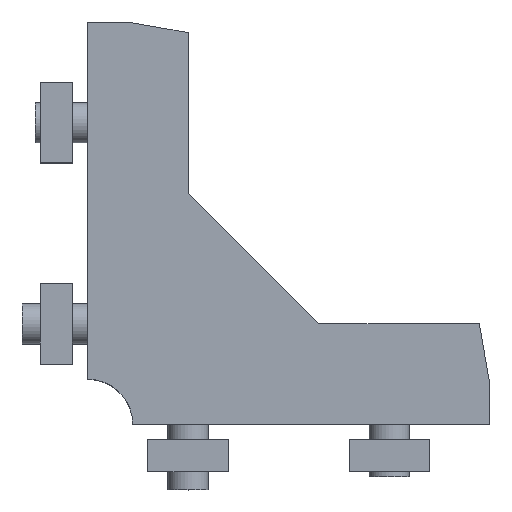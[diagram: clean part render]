
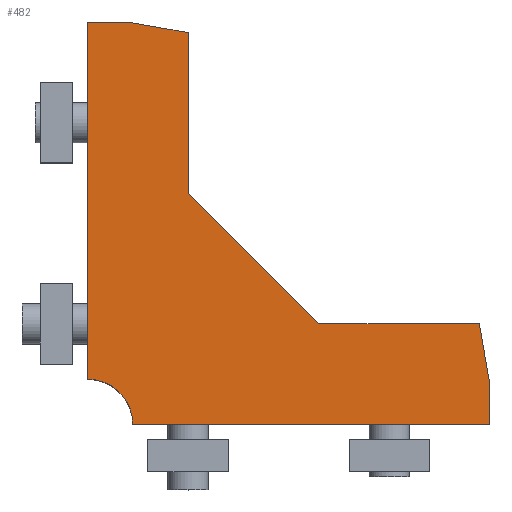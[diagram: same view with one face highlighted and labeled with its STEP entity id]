
A CAD part, top view. The second image highlights one B-rep face of the part: STEP entity #482.
In plain terms, the highlighted planar face has unit normal (0, 0, 1).
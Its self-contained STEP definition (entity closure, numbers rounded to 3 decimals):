
#367=CARTESIAN_POINT('',(0.,4.5,7.5));
#368=VERTEX_POINT('',#367);
#369=CARTESIAN_POINT('',(4.5,0.,7.5));
#370=VERTEX_POINT('',#369);
#371=CARTESIAN_POINT('',(0.0,0.0,7.5));
#372=DIRECTION('',(0.0,0.0,-1.0));
#373=DIRECTION('',(-1.0,0.0,0.0));
#374=AXIS2_PLACEMENT_3D('',#371,#372,#373);
#375=CIRCLE('',#374,4.5);
#376=EDGE_CURVE('',#368,#370,#375,.T.);
#404=CARTESIAN_POINT('',(14.673,14.673,7.5));
#405=DIRECTION('',(0.0,0.0,1.0));
#406=DIRECTION('',(1.0,0.0,0.0));
#407=AXIS2_PLACEMENT_3D('',#404,#405,#406);
#408=PLANE('',#407);
#409=ORIENTED_EDGE('',*,*,#376,.T.);
#410=CARTESIAN_POINT('',(40.,0.,7.5));
#411=VERTEX_POINT('',#410);
#412=CARTESIAN_POINT('',(40.,0.,7.5));
#413=DIRECTION('',(-1.0,0.0,0.0));
#414=VECTOR('',#413,35.5);
#415=LINE('',#412,#414);
#416=EDGE_CURVE('',#411,#370,#415,.T.);
#417=ORIENTED_EDGE('',*,*,#416,.F.);
#418=CARTESIAN_POINT('',(40.,4.,7.5));
#419=VERTEX_POINT('',#418);
#420=CARTESIAN_POINT('',(40.,4.,7.5));
#421=DIRECTION('',(0.0,-1.0,0.0));
#422=VECTOR('',#421,4.);
#423=LINE('',#420,#422);
#424=EDGE_CURVE('',#419,#411,#423,.T.);
#425=ORIENTED_EDGE('',*,*,#424,.F.);
#426=CARTESIAN_POINT('',(38.942,10.,7.5));
#427=VERTEX_POINT('',#426);
#428=CARTESIAN_POINT('',(38.942,10.,7.5));
#429=DIRECTION('',(0.174,-0.985,0.0));
#430=VECTOR('',#429,6.093);
#431=LINE('',#428,#430);
#432=EDGE_CURVE('',#427,#419,#431,.T.);
#433=ORIENTED_EDGE('',*,*,#432,.F.);
#434=CARTESIAN_POINT('',(23.,10.,7.5));
#435=VERTEX_POINT('',#434);
#436=CARTESIAN_POINT('',(23.,10.,7.5));
#437=DIRECTION('',(1.0,0.0,0.0));
#438=VECTOR('',#437,15.942);
#439=LINE('',#436,#438);
#440=EDGE_CURVE('',#435,#427,#439,.T.);
#441=ORIENTED_EDGE('',*,*,#440,.F.);
#442=CARTESIAN_POINT('',(10.,23.,7.5));
#443=VERTEX_POINT('',#442);
#444=CARTESIAN_POINT('',(10.,23.,7.5));
#445=DIRECTION('',(0.707,-0.707,0.0));
#446=VECTOR('',#445,18.385);
#447=LINE('',#444,#446);
#448=EDGE_CURVE('',#443,#435,#447,.T.);
#449=ORIENTED_EDGE('',*,*,#448,.F.);
#450=CARTESIAN_POINT('',(10.,38.942,7.5));
#451=VERTEX_POINT('',#450);
#452=CARTESIAN_POINT('',(10.,38.942,7.5));
#453=DIRECTION('',(0.0,-1.0,0.0));
#454=VECTOR('',#453,15.942);
#455=LINE('',#452,#454);
#456=EDGE_CURVE('',#451,#443,#455,.T.);
#457=ORIENTED_EDGE('',*,*,#456,.F.);
#458=CARTESIAN_POINT('',(4.,40.,7.5));
#459=VERTEX_POINT('',#458);
#460=CARTESIAN_POINT('',(4.,40.,7.5));
#461=DIRECTION('',(0.985,-0.174,0.0));
#462=VECTOR('',#461,6.093);
#463=LINE('',#460,#462);
#464=EDGE_CURVE('',#459,#451,#463,.T.);
#465=ORIENTED_EDGE('',*,*,#464,.F.);
#466=CARTESIAN_POINT('',(0.,40.,7.5));
#467=VERTEX_POINT('',#466);
#468=CARTESIAN_POINT('',(0.,40.,7.5));
#469=DIRECTION('',(1.0,0.,0.0));
#470=VECTOR('',#469,4.);
#471=LINE('',#468,#470);
#472=EDGE_CURVE('',#467,#459,#471,.T.);
#473=ORIENTED_EDGE('',*,*,#472,.F.);
#474=CARTESIAN_POINT('',(0.,4.5,7.5));
#475=DIRECTION('',(0.0,1.0,0.0));
#476=VECTOR('',#475,35.5);
#477=LINE('',#474,#476);
#478=EDGE_CURVE('',#368,#467,#477,.T.);
#479=ORIENTED_EDGE('',*,*,#478,.F.);
#480=EDGE_LOOP('',(#409,#417,#425,#433,#441,#449,#457,#465,#473,#479));
#481=FACE_OUTER_BOUND('',#480,.T.);
#482=ADVANCED_FACE('',(#481),#408,.T.);
